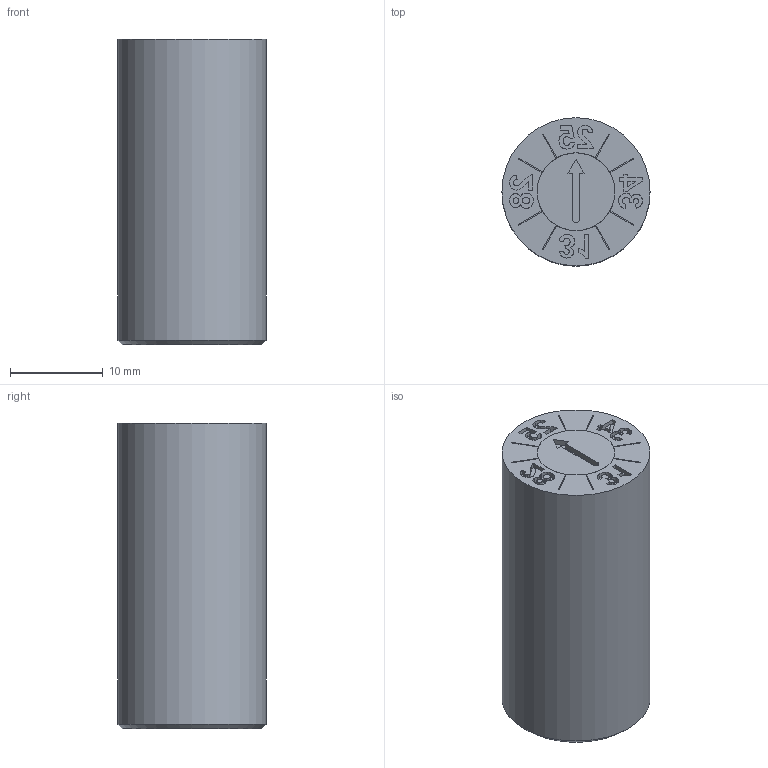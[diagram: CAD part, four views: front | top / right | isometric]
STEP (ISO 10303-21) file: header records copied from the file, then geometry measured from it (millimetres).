
FILE_DESCRIPTION(/* description */ (''),/* implementation_level */ '2;1');
FILE_NAME(/* name */ 'IMC-D1000-YEE16.step',/* time_stamp */ '2025-04-07T11:24:16+02:00',/* author */ (''),/* organization */ (''),/* preprocessor_version */ 'ST-DEVELOPER v20.1',/* originating_system */ 'Autodesk Translation Framework v14.4.0.0',/* authorisation */ '');
FILE_SCHEMA (('AUTOMOTIVE_DESIGN { 1 0 10303 214 3 1 1 }'));
Length unit declared in the file: millimetre
Products named in the file (1): D1000-YEE16
Bounding box: 16 x 16 x 33 mm (x, y, z)
Volume: 6298.8 mm3; surface area: 2359.1 mm2
Topology: 1 solids, 1 shells, 235 faces, 654 edges, 435 vertices
Faces by surface type: bspline 133, plane 86, cylinder 13, cone 3
Full cylindrical faces by diameter (mm): 6.779 x1, 8.4 x1, 8.41 x1, 16 x1
Entity records: 8766 total; most frequent: CARTESIAN_POINT 3585, ORIENTED_EDGE 1306, EDGE_CURVE 653, DIRECTION 637, VERTEX_POINT 435, LINE 343, VECTOR 343, B_SPLINE_CURVE_WITH_KNOTS 266
